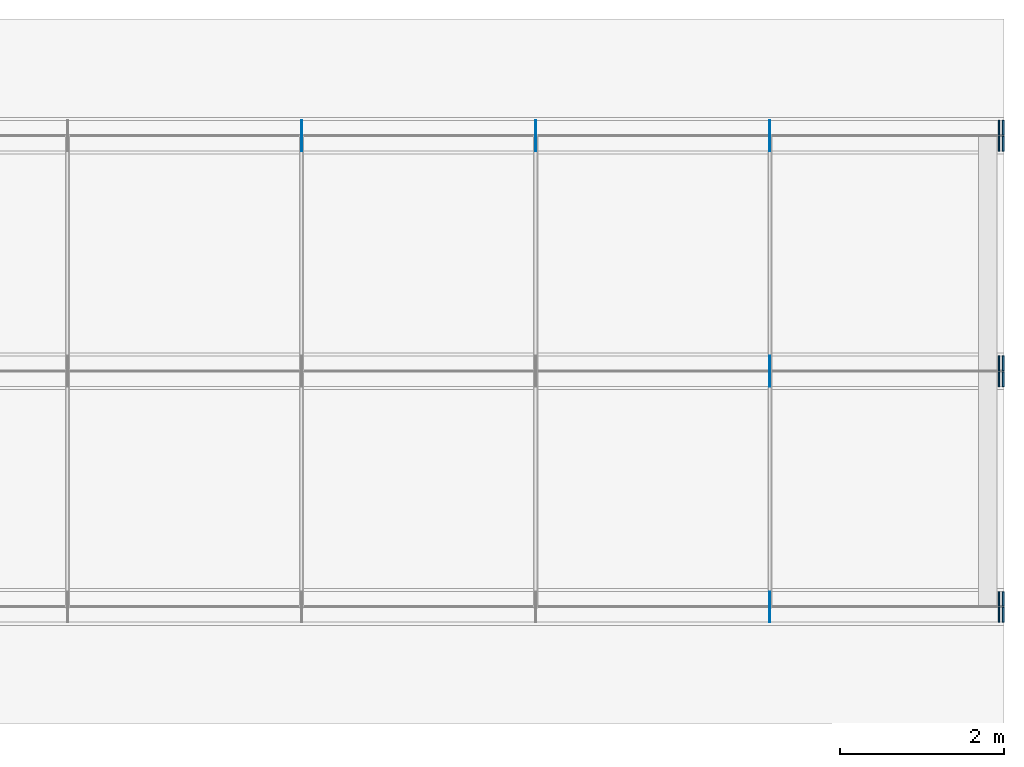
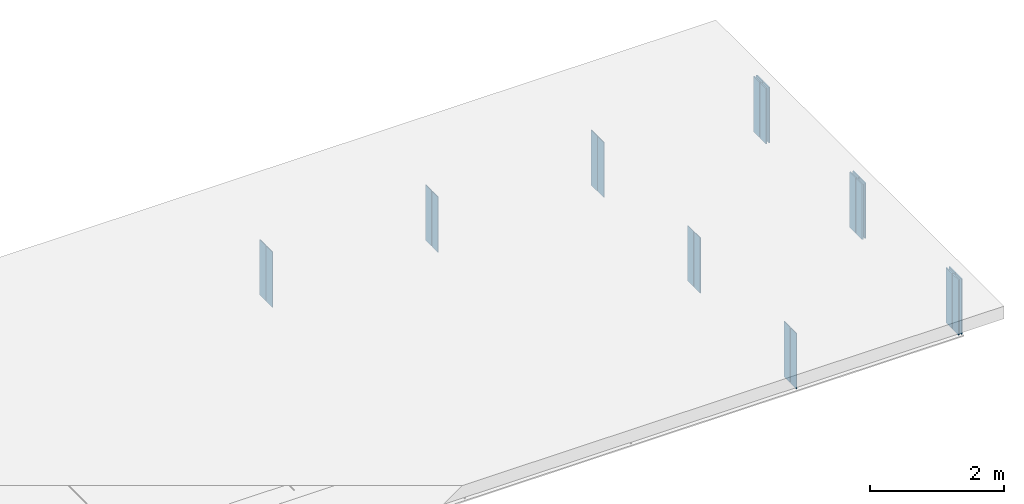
# One storey, part 8 of 8: 22 plates.
"""IFC4 building model written with IfcOpenShell, lengths in metres."""

from ifc_helpers import new_model, si_unit, frame, origin, origin_with_axes, origin_2d_with_axis, place, context, subcontext, project, spatial, rectangle, extrude, element, save


model = new_model("IFC4")

# Units and contexts
model_context = context("Model", 3, precision=1e-05, world=origin())
body_context = subcontext(model_context, "Body", "Model", "MODEL_VIEW")
ifc_project = project(units=[si_unit("LENGTHUNIT", "METRE"), si_unit("AREAUNIT", "SQUARE_METRE"), si_unit("VOLUMEUNIT", "CUBIC_METRE"), si_unit("PLANEANGLEUNIT", "RADIAN")], contexts=[model_context])

# Site, building, storey
site_placement = place(None, origin_with_axes())
site = spatial("IfcSite", under=ifc_project, at=site_placement, Name="Default Site")
building_placement = place(site_placement, origin_with_axes())
building = spatial("IfcBuilding", under=site, at=building_placement, Name="Bridge Structure")
storey_placement = place(building_placement, origin_with_axes())
storey = spatial("IfcBuildingStorey", under=building, at=storey_placement, Name="Superstructure")

# Plates
for number, where, z_axis, x_axis, name in (
    (1, (17.142, -2.77825, -0.505), (0.0, 0.0, 1.0), (1.0, 0.0, 0.0), "Intermediate Stiffener 1"),
    (2, (17.142, -2.97175, -0.505), (0.0, 0.0, 1.0), (1.0, 0.0, 0.0), "Intermediate Stiffener 1"),
):
    element("IfcPlate", number, at=place(storey_placement, frame(where, z_axis=z_axis, x_axis=x_axis)), inside=storey, Name=name, context=body_context, shape_type="SweptSolid", body=[
        extrude(rectangle(XDim=0.012, YDim=0.1815, at=origin_2d_with_axis()), origin_with_axes(), (0.0, 0.0, 1.0), 1.01),
    ])
for number, where, z_axis, x_axis, name in (
    (3, (19.990000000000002, -2.77825, -0.505), (0.0, 0.0, 1.0), (1.0, 0.0, 0.0), "End Stiffener 1"),
    (4, (19.990000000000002, -2.97175, -0.505), (0.0, 0.0, 1.0), (1.0, 0.0, 0.0), "End Stiffener 1"),
    (5, (19.94, -2.77825, -0.505), (0.0, 0.0, 1.0), (1.0, 0.0, 0.0), "End Stiffener 1"),
    (6, (19.94, -2.97175, -0.505), (0.0, 0.0, 1.0), (1.0, 0.0, 0.0), "End Stiffener 1"),
):
    element("IfcPlate", number, at=place(storey_placement, frame(where, z_axis=z_axis, x_axis=x_axis)), inside=storey, Name=name, context=body_context, shape_type="SweptSolid", body=[
        extrude(rectangle(XDim=0.02, YDim=0.1815, at=origin_2d_with_axis()), origin_with_axes(), (0.0, 0.0, 1.0), 1.01),
    ])
for number, where, z_axis, x_axis, name in (
    (7, (17.142, 0.09675, -0.505), (0.0, 0.0, 1.0), (1.0, 0.0, 0.0), "Intermediate Stiffener 2"),
    (8, (17.142, -0.09675, -0.505), (0.0, 0.0, 1.0), (1.0, 0.0, 0.0), "Intermediate Stiffener 2"),
):
    element("IfcPlate", number, at=place(storey_placement, frame(where, z_axis=z_axis, x_axis=x_axis)), inside=storey, Name=name, context=body_context, shape_type="SweptSolid", body=[
        extrude(rectangle(XDim=0.012, YDim=0.1815, at=origin_2d_with_axis()), origin_with_axes(), (0.0, 0.0, 1.0), 1.01),
    ])
for number, where, z_axis, x_axis, name in (
    (9, (19.990000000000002, 0.09675, -0.505), (0.0, 0.0, 1.0), (1.0, 0.0, 0.0), "End Stiffener 2"),
    (10, (19.990000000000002, -0.09675, -0.505), (0.0, 0.0, 1.0), (1.0, 0.0, 0.0), "End Stiffener 2"),
    (11, (19.94, 0.09675, -0.505), (0.0, 0.0, 1.0), (1.0, 0.0, 0.0), "End Stiffener 2"),
    (12, (19.94, -0.09675, -0.505), (0.0, 0.0, 1.0), (1.0, 0.0, 0.0), "End Stiffener 2"),
):
    element("IfcPlate", number, at=place(storey_placement, frame(where, z_axis=z_axis, x_axis=x_axis)), inside=storey, Name=name, context=body_context, shape_type="SweptSolid", body=[
        extrude(rectangle(XDim=0.02, YDim=0.1815, at=origin_2d_with_axis()), origin_with_axes(), (0.0, 0.0, 1.0), 1.01),
    ])
for number, where, z_axis, x_axis, name in (
    (13, (11.428, 2.97175, -0.505), (0.0, 0.0, 1.0), (1.0, 0.0, 0.0), "Intermediate Stiffener 3"),
    (14, (11.428, 2.77825, -0.505), (0.0, 0.0, 1.0), (1.0, 0.0, 0.0), "Intermediate Stiffener 3"),
    (15, (14.285, 2.97175, -0.505), (0.0, 0.0, 1.0), (1.0, 0.0, 0.0), "Intermediate Stiffener 3"),
    (16, (14.285, 2.77825, -0.505), (0.0, 0.0, 1.0), (1.0, 0.0, 0.0), "Intermediate Stiffener 3"),
    (17, (17.142, 2.97175, -0.505), (0.0, 0.0, 1.0), (1.0, 0.0, 0.0), "Intermediate Stiffener 3"),
    (18, (17.142, 2.77825, -0.505), (0.0, 0.0, 1.0), (1.0, 0.0, 0.0), "Intermediate Stiffener 3"),
):
    element("IfcPlate", number, at=place(storey_placement, frame(where, z_axis=z_axis, x_axis=x_axis)), inside=storey, Name=name, context=body_context, shape_type="SweptSolid", body=[
        extrude(rectangle(XDim=0.012, YDim=0.1815, at=origin_2d_with_axis()), origin_with_axes(), (0.0, 0.0, 1.0), 1.01),
    ])
for number, where, z_axis, x_axis, name in (
    (19, (19.990000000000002, 2.97175, -0.505), (0.0, 0.0, 1.0), (1.0, 0.0, 0.0), "End Stiffener 3"),
    (20, (19.990000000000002, 2.77825, -0.505), (0.0, 0.0, 1.0), (1.0, 0.0, 0.0), "End Stiffener 3"),
    (21, (19.94, 2.97175, -0.505), (0.0, 0.0, 1.0), (1.0, 0.0, 0.0), "End Stiffener 3"),
    (22, (19.94, 2.77825, -0.505), (0.0, 0.0, 1.0), (1.0, 0.0, 0.0), "End Stiffener 3"),
):
    element("IfcPlate", number, at=place(storey_placement, frame(where, z_axis=z_axis, x_axis=x_axis)), inside=storey, Name=name, context=body_context, shape_type="SweptSolid", body=[
        extrude(rectangle(XDim=0.02, YDim=0.1815, at=origin_2d_with_axis()), origin_with_axes(), (0.0, 0.0, 1.0), 1.01),
    ])

save(model, "model.ifc")
